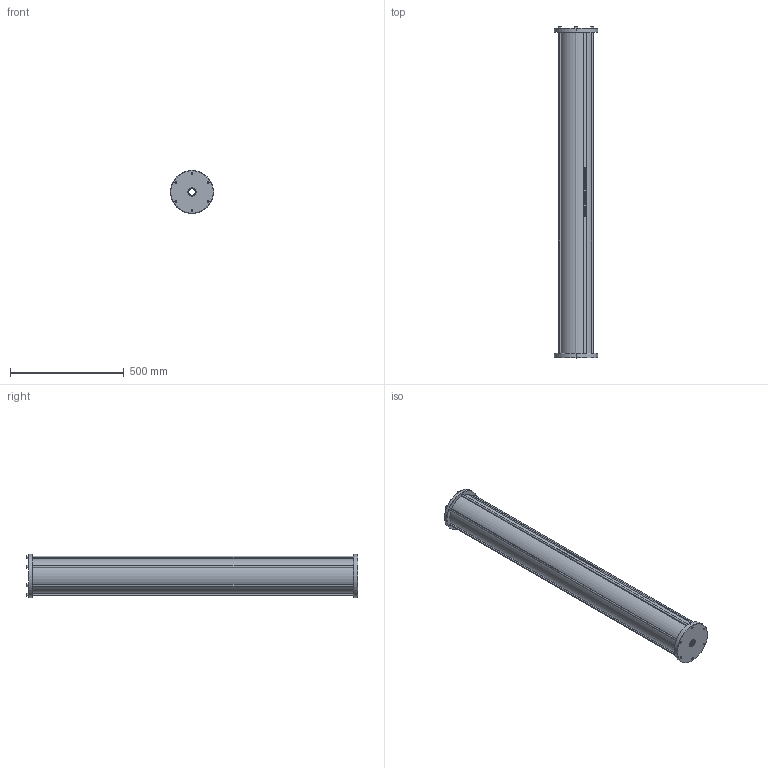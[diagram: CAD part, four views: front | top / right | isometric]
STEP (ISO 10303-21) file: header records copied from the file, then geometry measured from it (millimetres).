
FILE_DESCRIPTION (( 'STEP AP214' ), '1' );
FILE_NAME ('20LTR-C-11-34.STEP', '2025-09-08T09:30:01', ( '' ), ( '' ), 'SwSTEP 2.0', 'SolidWorks 2024', '' );
FILE_SCHEMA (( 'AUTOMOTIVE_DESIGN' ));
Length unit declared in the file: millimetre
Products named in the file (1): 20LTR-C-11-34
Bounding box: 190 x 1462 x 190 mm (x, y, z)
Surface area: 1636741.5 mm2 (no closed solid volume)
Topology: 0 solids, 74 shells, 285 faces, 1517 edges, 1297 vertices
Faces by surface type: cylinder 118, plane 85, cone 44, bspline 20, torus 12, sphere 6
Entity records: 33375 total; most frequent: CARTESIAN_POINT 20010, ORIENTED_EDGE 1858, DIRECTION 1681, EDGE_CURVE 1517, VERTEX_POINT 1297, LINE 573, VECTOR 573, AXIS2_PLACEMENT_3D 554
